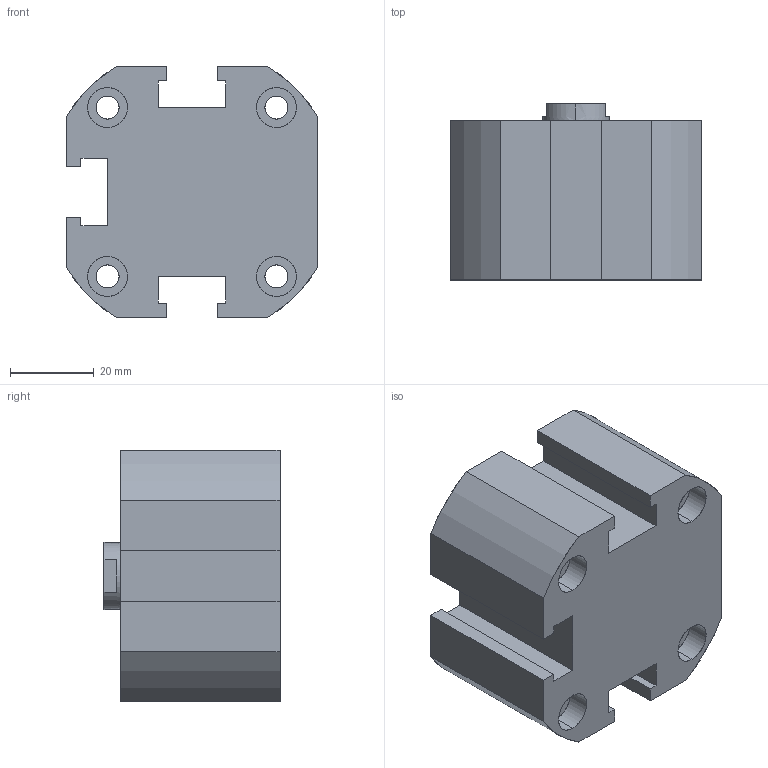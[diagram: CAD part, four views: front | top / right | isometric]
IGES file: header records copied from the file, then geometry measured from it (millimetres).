
Start section: SolidWorks IGES file using analytic representation for surfaces
Global section: file name: C:\Users\Toshiba\Desktop\XC#2-40-10.IGS; native system: SolidWorks 2014; preprocessor: SolidWorks 2014; author: Toshiba; date: 160523.161005; units: millimetre
Bounding box: 60 x 42 x 60 mm (x, y, z)
Surface area: 21564.9 mm2 (no closed solid volume)
Topology: 0 solids, 0 shells, 114 faces, 2014 edges, 2008 vertices
Faces by surface type: revolution 64, bspline 50
